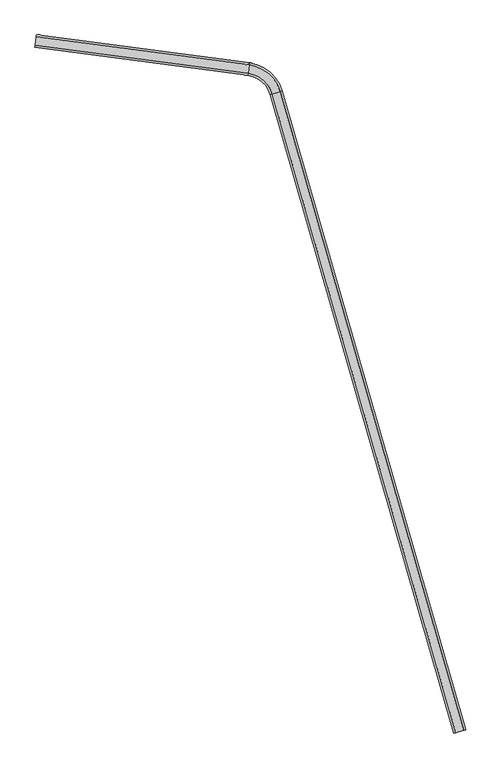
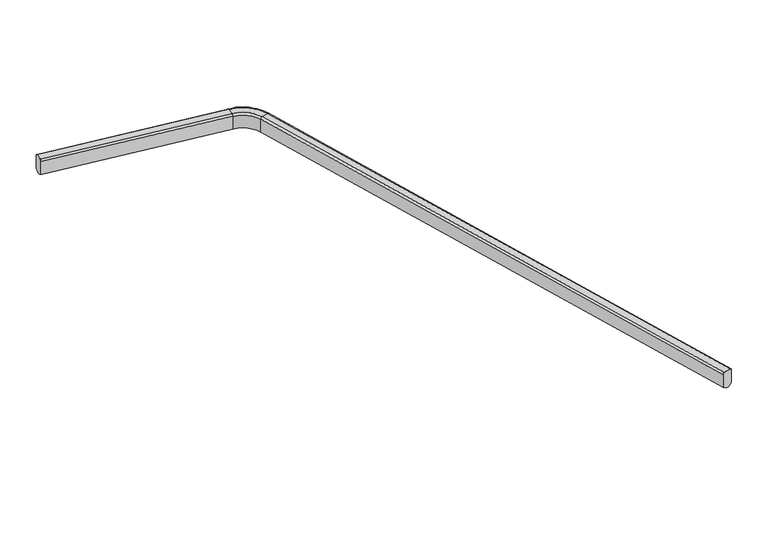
"""IFC4 building model written with IfcOpenShell, lengths in millimetres: railing geometry, Hedge 750mm High."""

from ifc_helpers import new_model, si_unit, point, frame, origin, place, context, project, spatial, polyline, circle_curve, ellipse_curve, trimmed, source, transform, mapped, element, save
from ifc_brep_helpers import plane_surface, cylinder_surface, revolved_surface, advanced_brep


def railing_e34913bf(model_context):
    return source(origin(), model_context, "Body", "AdvancedBrep", [
        advanced_brep(
        [(13714.6109036, -13611.535145, 3550.0), (13426.2787227, -13694.3877457, 3550.0), (13354.1956775, -13715.1008958, 3475.0), (13354.1956775, -13715.1008958, 2900.0), (13527.194986, -13665.3893354, 2800.0), (13613.6946403, -13640.5335552, 2800.0), (13786.6939489, -13590.8219948, 2900.0), (13786.6939489, -13590.8219948, 3475.0), (6766.7652486, 9209.5649133, 3475.0), (6766.7652486, 9209.5649133, 2900.0), (7127.1804747, 9313.1306641, 3550.0), (6838.8482938, 9230.2780635, 3550.0), (-1635.3178465, 11279.0969125, 3550.0), (-1625.5373498, 11353.4564571, 3475.0), (-1625.5373498, 11353.4564571, 2900.0), (-1649.010542, 11174.9935499, 2800.0), (-1660.7471381, 11085.7620963, 2800.0), (-1684.2203303, 10907.2991891, 2900.0), (-1684.2203303, 10907.2991891, 3475.0), (-1674.4398335, 10981.6587338, 3550.0), (5963.26778, 9901.4265341, 2900.0), (5963.26778, 9901.4265341, 3475.0), (5973.0482768, 9975.7860788, 3550.0), (6012.1702638, 10273.2242574, 3550.0), (6939.7645571, 9259.2764737, 2800.0), (7026.2642114, 9284.1322539, 2800.0), (7199.26352, 9333.8438143, 2900.0), (7199.26352, 9333.8438143, 3475.0), (5986.7409722, 10079.8894413, 2800.0), (5998.4775684, 10169.1208949, 2800.0), (6021.9507606, 10347.5838021, 2900.0), (6021.9507606, 10347.5838021, 3475.0)],
        [
            (0, 1),
            (1, 2, circle_curve(frame((13426.2787227, -13694.3877457, 3475.0), z_axis=(0.2761753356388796, -0.9611072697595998, 0.0), x_axis=(0.9611072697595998, 0.2761753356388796, 0.0)), 75.0)),
            (2, 3),
            (3, 4),
            (4, 5),
            (5, 6),
            (6, 7),
            (7, 0, circle_curve(frame((13714.6109036, -13611.535145, 3475.0), z_axis=(0.2761753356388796, -0.9611072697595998, 0.0), x_axis=(0.9611072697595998, 0.2761753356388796, 0.0)), 75.0)),
            (2, 8),
            (8, 9),
            (9, 3),
            (0, 10),
            (10, 11),
            (11, 1),
            (12, 13, circle_curve(frame((-1635.3178465, 11279.0969125, 3475.0), z_axis=(-0.991460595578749, 0.13040662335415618, 0.0), x_axis=(0.13040662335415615, 0.9914605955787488, 0.0)), 75.0)),
            (13, 14),
            (14, 15),
            (15, 16),
            (16, 17),
            (17, 18),
            (18, 19, circle_curve(frame((-1674.4398335, 10981.6587338, 3475.0), z_axis=(-0.991460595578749, 0.13040662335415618, 0.0), x_axis=(0.13040662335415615, 0.9914605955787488, 0.0)), 75.0)),
            (19, 12),
            (20, 21),
            (21, 18),
            (17, 20),
            (22, 23),
            (23, 12),
            (19, 22),
            (11, 8, circle_curve(frame((6838.8482938, 9230.2780635, 3475.0), z_axis=(0.2761753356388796, -0.9611072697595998, 0.0), x_axis=(0.9611072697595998, 0.2761753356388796, 0.0)), 75.0)),
            (9, 24),
            (24, 4),
            (24, 25),
            (25, 5),
            (25, 26),
            (26, 6),
            (26, 27),
            (27, 7),
            (27, 10, circle_curve(frame((7127.1804747, 9313.1306641, 3475.0), z_axis=(0.2761753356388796, -0.9611072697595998, 0.0), x_axis=(0.9611072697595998, 0.2761753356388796, 0.0)), 75.0)),
            (21, 22, circle_curve(frame((5973.0482768, 9975.7860788, 3475.0), z_axis=(-0.991460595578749, 0.13040662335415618, 0.0), x_axis=(0.13040662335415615, 0.9914605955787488, 0.0)), 75.0)),
            (28, 20),
            (16, 28),
            (29, 28),
            (15, 29),
            (30, 29),
            (14, 30),
            (31, 30),
            (13, 31),
            (23, 31, circle_curve(frame((6012.1702638, 10273.2242574, 3475.0), z_axis=(-0.991460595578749, 0.13040662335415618, 0.0), x_axis=(0.13040662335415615, 0.9914605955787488, 0.0)), 75.0)),
            (22, 11, circle_curve(frame((5837.1316175, 8942.4335658, 3550.0), z_axis=(0.0, 0.0, -1.0), x_axis=(0.9611072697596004, 0.27617533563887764, 0.0)), 1042.2527306)),
            (10, 23, circle_curve(frame((5837.1316175, 8942.4335658, 3550.0), z_axis=(0.0, 0.0, 1.0), x_axis=(0.9611072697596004, 0.27617533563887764, 0.0)), 1342.2527306)),
            (21, 8, circle_curve(frame((5837.1316175, 8942.4335658, 3475.0), z_axis=(0.0, 0.0, -1.0), x_axis=(0.9611072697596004, 0.27617533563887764, 0.0)), 967.2527306)),
            (20, 9, circle_curve(frame((5837.1316175, 8942.4335658, 2900.0), z_axis=(0.0, 0.0, -1.0), x_axis=(0.9611072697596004, 0.27617533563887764, 0.0)), 967.2527306)),
            (28, 24, circle_curve(frame((5837.1316175, 8942.4335658, 2800.0), z_axis=(0.0, 0.0, -1.0), x_axis=(0.9611072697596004, 0.27617533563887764, 0.0)), 1147.2527306)),
            (29, 25, circle_curve(frame((5837.1316175, 8942.4335658, 2800.0), z_axis=(0.0, 0.0, -1.0), x_axis=(0.9611072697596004, 0.27617533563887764, 0.0)), 1237.2527306)),
            (30, 26, circle_curve(frame((5837.1316175, 8942.4335658, 2900.0), z_axis=(0.0, 0.0, -1.0), x_axis=(0.9611072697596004, 0.27617533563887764, 0.0)), 1417.2527306)),
            (31, 27, circle_curve(frame((5837.1316175, 8942.4335658, 3475.0), z_axis=(0.0, 0.0, -1.0), x_axis=(0.9611072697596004, 0.27617533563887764, 0.0)), 1417.2527306)),
        ],
        [
            plane_surface(frame((13577.8907701, -13650.8218406, 3550.0), z_axis=(0.2761753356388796, -0.9611072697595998, 0.0), x_axis=(0.9611072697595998, 0.2761753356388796, 0.0))),
            plane_surface(frame((13354.1956775, -13715.1008958, 3475.0), z_axis=(-0.9611072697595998, -0.2761753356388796, 0.0), x_axis=(-0.2761753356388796, 0.9611072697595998, 0.0))),
            plane_surface(frame((13714.6109036, -13611.535145, 3550.0), z_axis=(0.0, 0.0, 1.0), x_axis=(-0.2761753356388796, 0.9611072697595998, 0.0))),
            plane_surface(frame((-1653.8685448, 11138.0589355, 3550.0), z_axis=(-0.9914605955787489, 0.13040662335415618, 0.0), x_axis=(0.13040662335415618, 0.9914605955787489, 0.0))),
            plane_surface(frame((5963.26778, 9901.4265341, 3475.0), z_axis=(-0.13040662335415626, -0.9914605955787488, 0.0), x_axis=(-0.9914605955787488, 0.13040662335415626, 0.0))),
            plane_surface(frame((6012.1702638, 10273.2242574, 3550.0), z_axis=(0.0, 0.0, 1.0000000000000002), x_axis=(-0.9914605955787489, 0.13040662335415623, 0.0))),
            cylinder_surface(frame((13426.2787227, -13694.3877457, 3475.0), z_axis=(0.2761753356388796, -0.9611072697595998, 0.0), x_axis=(0.9611072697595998, 0.2761753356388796, 0.0)), 75.0),
            plane_surface(frame((13354.1956775, -13715.1008958, 2900.0), z_axis=(-0.46675495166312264, -0.1341225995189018, -0.8741572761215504), x_axis=(-0.2761753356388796, 0.9611072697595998, 0.0))),
            plane_surface(frame((13527.194986, -13665.3893354, 2800.0), z_axis=(0.0, 0.0, -1.0), x_axis=(-0.2761753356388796, 0.9611072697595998, 0.0))),
            plane_surface(frame((13613.6946403, -13640.5335552, 2800.0), z_axis=(0.46675495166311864, 0.13412259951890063, -0.8741572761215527), x_axis=(-0.2761753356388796, 0.9611072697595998, 0.0))),
            plane_surface(frame((13786.6939489, -13590.8219948, 2900.0), z_axis=(0.9611072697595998, 0.2761753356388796, 0.0), x_axis=(-0.2761753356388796, 0.9611072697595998, 0.0))),
            cylinder_surface(frame((13714.6109036, -13611.535145, 3475.0), z_axis=(0.2761753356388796, -0.9611072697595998, 0.0), x_axis=(0.9611072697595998, 0.2761753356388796, 0.0)), 75.0),
            cylinder_surface(frame((5973.0482768, 9975.7860788, 3475.0), z_axis=(0.9914605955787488, -0.13040662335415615, 0.0), x_axis=(0.13040662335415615, 0.9914605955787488, 0.0)), 75.0),
            plane_surface(frame((5963.26778, 9901.4265341, 2900.0), z_axis=(-0.06333105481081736, -0.4814958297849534, -0.8741572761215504), x_axis=(-0.9914605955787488, 0.13040662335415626, 0.0))),
            plane_surface(frame((5986.7409722, 10079.8894413, 2800.0), z_axis=(0.0, 0.0, -1.0), x_axis=(-0.9914605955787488, 0.13040662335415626, 0.0))),
            plane_surface(frame((5998.4775684, 10169.1208949, 2800.0), z_axis=(0.06333105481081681, 0.4814958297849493, -0.8741572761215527), x_axis=(-0.9914605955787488, 0.13040662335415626, 0.0))),
            plane_surface(frame((6021.9507606, 10347.5838021, 2900.0), z_axis=(0.13040662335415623, 0.9914605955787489, 0.0), x_axis=(-0.9914605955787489, 0.13040662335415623, 0.0))),
            cylinder_surface(frame((6012.1702638, 10273.2242574, 3475.0), z_axis=(0.9914605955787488, -0.13040662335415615, 0.0), x_axis=(0.13040662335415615, 0.9914605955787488, 0.0)), 75.0),
            plane_surface(frame((5837.1316175, 8942.4335658, 3550.0), z_axis=(0.0, 0.0, 1.0), x_axis=(0.9611072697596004, 0.27617533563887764, 0.0))),
            revolved_surface(trimmed(ellipse_curve(frame((6838.8482938, 9230.2780635, 3475.0), z_axis=(0.27617533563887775, -0.9611072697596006, 0.0), x_axis=(0.9611072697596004, 0.2761753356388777, 0.0)), 75.0, 75.0), [point((6838.8482938, 9230.2780635, 3550.0))], [point((6766.7652486, 9209.5649133, 3475.0))], True, "CARTESIAN"), (5837.1316175, 8942.4335658, 3550.0), (0.0, 0.0, 1.0000000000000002)),
            revolved_surface(polyline([(6766.765248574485, 9209.564913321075, 3475.0), (6766.765248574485, 9209.564913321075, 2900.0)]), (5837.1316175, 8942.4335658, 3550.0), (0.0, 0.0, 1.0000000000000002)),
            revolved_surface(polyline([(6766.7652486, 9209.5649133, 2900.0), (6939.7645571, 9259.2764737, 2800.0)]), (5837.1316175, 8942.4335658, 3550.0), (0.0, 0.0, 1.0000000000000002)),
            plane_surface(frame((5837.1316175, 8942.4335658, 2800.0), z_axis=(0.0, 0.0, -1.0), x_axis=(0.9611072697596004, 0.27617533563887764, 0.0))),
            revolved_surface(polyline([(7026.2642114, 9284.1322539, 2800.0), (7199.26352, 9333.8438143, 2900.0)]), (5837.1316175, 8942.4335658, 3550.0), (0.0, 0.0, 1.0000000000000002)),
            cylinder_surface(frame((5837.1316175, 8942.4335658, 3550.0), z_axis=(0.0, 0.0, 1.0000000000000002), x_axis=(0.9611072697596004, 0.27617533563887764, 0.0)), 1417.2527306),
            revolved_surface(trimmed(ellipse_curve(frame((7127.1804747, 9313.1306641, 3475.0), z_axis=(0.27617533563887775, -0.9611072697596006, 0.0), x_axis=(0.9611072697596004, 0.2761753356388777, 0.0)), 75.0, 75.0), [point((7199.26352, 9333.8438143, 3475.0))], [point((7127.1804747, 9313.1306641, 3550.0))], True, "CARTESIAN"), (5837.1316175, 8942.4335658, 3550.0), (0.0, 0.0, 1.0000000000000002)),
        ],
        [
            (0, [[1, 2, 3, 4, 5, 6, 7, 8]]),
            (1, [[-3, 9, 10, 11]]),
            (2, [[-1, 12, 13, 14]]),
            (3, [[15, 16, 17, 18, 19, 20, 21, 22]]),
            (4, [[23, 24, -20, 25]]),
            (5, [[26, 27, -22, 28]]),
            (6, [[-2, -14, 29, -9]]),
            (7, [[-4, -11, 30, 31]]),
            (8, [[-5, -31, 32, 33]]),
            (9, [[-6, -33, 34, 35]]),
            (10, [[-7, -35, 36, 37]]),
            (11, [[-8, -37, 38, -12]]),
            (12, [[39, -28, -21, -24]]),
            (13, [[40, -25, -19, 41]]),
            (14, [[42, -41, -18, 43]]),
            (15, [[44, -43, -17, 45]]),
            (16, [[46, -45, -16, 47]]),
            (17, [[48, -47, -15, -27]]),
            (18, [[49, -13, 50, -26]]),
            (19, [[51, -29, -49, -39]]),
            (20, [[52, -10, -51, -23]]),
            (21, [[53, -30, -52, -40]]),
            (22, [[54, -32, -53, -42]]),
            (23, [[55, -34, -54, -44]]),
            (24, [[56, -36, -55, -46]]),
            (25, [[-50, -38, -56, -48]]),
        ],
    ),
    ])


if __name__ == "__main__":
    model = new_model("IFC4")
    model_context = context("Model", 3, world=origin())
    ifc_project = project(units=[si_unit("LENGTHUNIT", "METRE", prefix="MILLI")], contexts=[model_context])
    site = spatial("IfcSite", under=ifc_project)
    building = spatial("IfcBuilding", under=site)
    placement = place(None, origin())
    railing_shape = railing_e34913bf(model_context)
    element("IfcRailing", 1, ObjectType="Hedge 750mm High", at=placement, inside=building, context=model_context, shape_type="MappedRepresentation", body=[
        mapped(railing_shape, transform((0.0, 0.0, 0.0), x_axis=(1.0, 0.0, 0.0), y_axis=(0.0, 1.0, 0.0), z_axis=(0.0, 0.0, 1.0))),
    ])
    save(model, "model.ifc")
